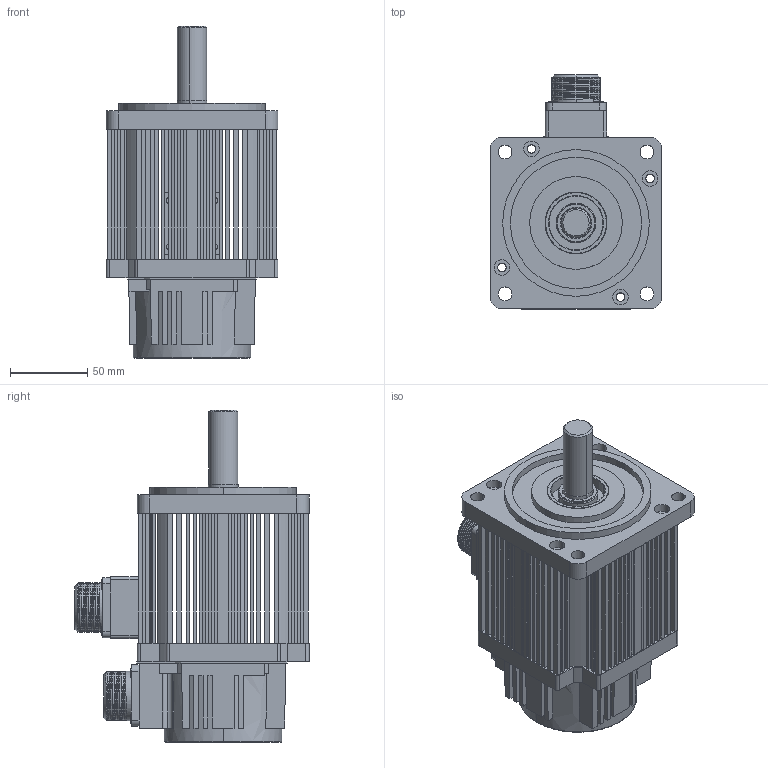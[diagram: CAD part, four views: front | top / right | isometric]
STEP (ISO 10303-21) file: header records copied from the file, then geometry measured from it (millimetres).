
FILE_DESCRIPTION (( 'STEP AP203' ), '1' );
FILE_NAME ('110ST-M02030.STEP', '2016-09-07T01:09:57', ( 'abc' ), ( 'Microsoft' ), 'SwSTEP 2.0', 'SolidWorks 2014', '' );
FILE_SCHEMA (( 'CONFIG_CONTROL_DESIGN' ));
Length unit declared in the file: millimetre
Products named in the file (1): 110ST-M02030
Bounding box: 111.2 x 151.6 x 215 mm (x, y, z)
Surface area: 159156.8 mm2 (no closed solid volume)
Topology: 0 solids, 64 shells, 672 faces, 2011 edges, 1422 vertices
Faces by surface type: plane 383, cylinder 240, sphere 25, torus 14, cone 8, bspline 2
Entity records: 25029 total; most frequent: CARTESIAN_POINT 7629, DIRECTION 3649, ORIENTED_EDGE 3137, EDGE_CURVE 1936, VERTEX_POINT 1372, LINE 1241, VECTOR 1241, AXIS2_PLACEMENT_3D 1204
